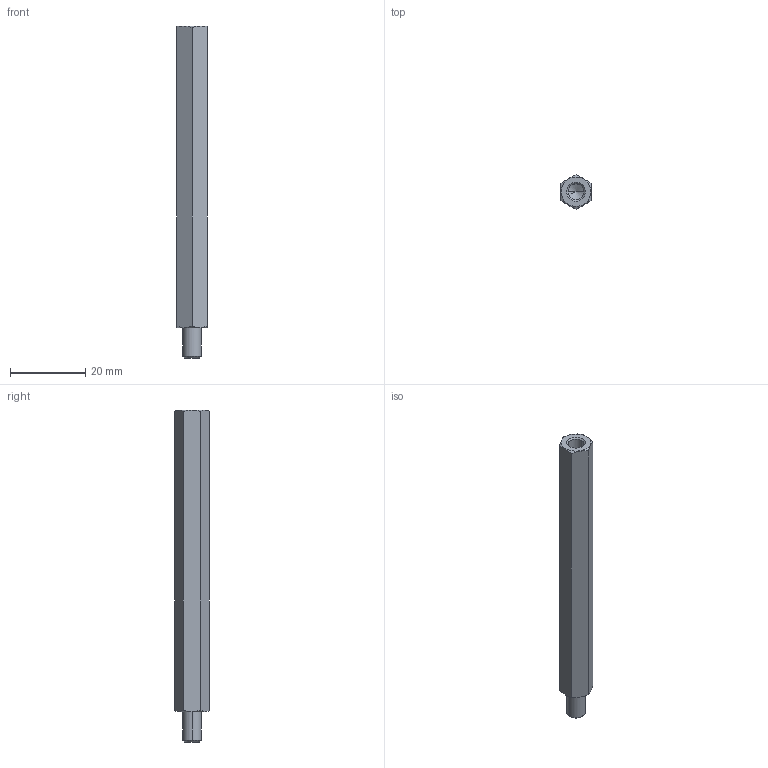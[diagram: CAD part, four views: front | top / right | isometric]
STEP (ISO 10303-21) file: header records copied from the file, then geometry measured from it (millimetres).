
FILE_DESCRIPTION (( 'STEP AP214' ), '1' );
FILE_NAME ('6220-ST-M5-80-B.step', '2019-02-25T07:34:52', ( 'user' ), ( '' ), 'SwSTEP 2.0', 'SolidWorks 2017', '' );
FILE_SCHEMA (( 'AUTOMOTIVE_DESIGN' ));
Length unit declared in the file: millimetre
Products named in the file (1): 6220-ST-M5-80-B
Bounding box: 8 x 9.24 x 88 mm (x, y, z)
Volume: 4383.8 mm3; surface area: 2627.8 mm2
Topology: 1 solids, 1 shells, 23 faces, 54 edges, 33 vertices
Faces by surface type: cone 10, plane 9, cylinder 4
Entity records: 762 total; most frequent: CARTESIAN_POINT 205, ORIENTED_EDGE 104, DIRECTION 100, EDGE_CURVE 52, AXIS2_PLACEMENT_3D 40, VERTEX_POINT 33, EDGE_LOOP 25, FACE_OUTER_BOUND 23
